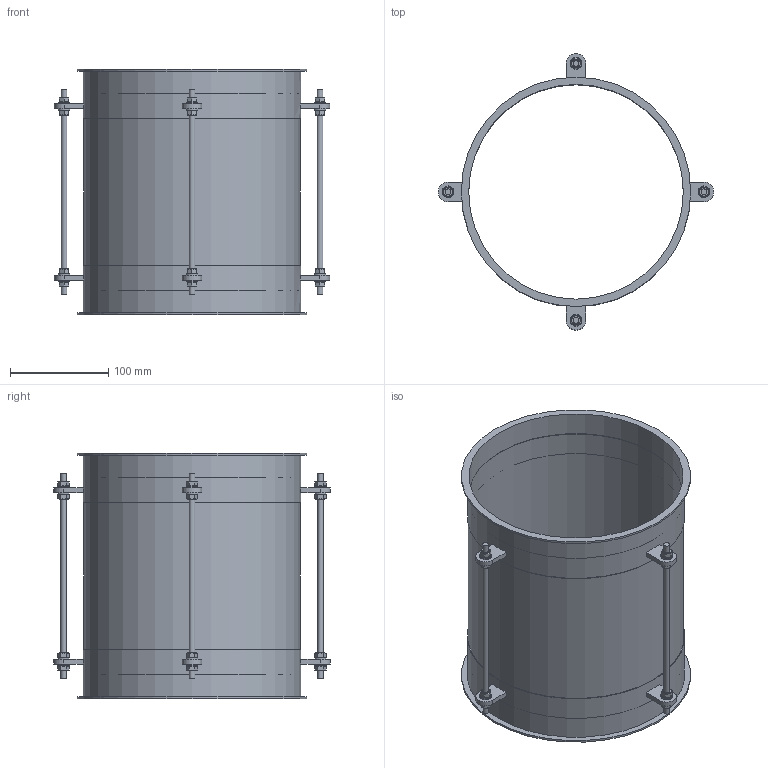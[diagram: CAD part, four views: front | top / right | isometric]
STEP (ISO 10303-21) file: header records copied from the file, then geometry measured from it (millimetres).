
FILE_DESCRIPTION((''),'2;1');
FILE_NAME('U:\Wolfgang\Marcel-3D\fertig\Kapitel 4\2211042.stp','2011-04-21T08:27:15',('TK1'),(''),'Autodesk Inventor 2010','Autodesk Inventor 2010','');
FILE_SCHEMA(('AUTOMOTIVE_DESIGN { 1 0 10303 214 1 1 1 1 }'));
Length unit declared in the file: millimetre
Products named in the file (6): 2211042; 2211042-1; 2211042-2; 2011042-3; ISO 4032 M6; ISO 7089 6 - 140 HV
Assembly tree (39 placements, depth 2):
  2211042
    2211042-1  x2
    2211042-2
    2011042-3  x4
    ISO 4032 M6  x16
    ISO 7089 6 - 140 HV  x16
Bounding box: 281.1 x 282 x 250 mm (x, y, z)
Volume: 250998.6 mm3; surface area: 475833.1 mm2
Topology: 45 solids, 45 shells, 362 faces, 758 edges, 490 vertices
Faces by surface type: plane 218, cylinder 64, cone 64, bspline 16
Full cylindrical faces by diameter (mm): 6 x12, 6.4 x16, 12 x16, 219 x3, 220.5 x3, 222 x2, 234 x2
Entity records: 1989 total; most frequent: DIRECTION 346, CARTESIAN_POINT 332, ORIENTED_EDGE 212, AXIS2_PLACEMENT_3D 148, EDGE_CURVE 106, EDGE_LOOP 100, VERTEX_POINT 80, FACE_OUTER_BOUND 60
